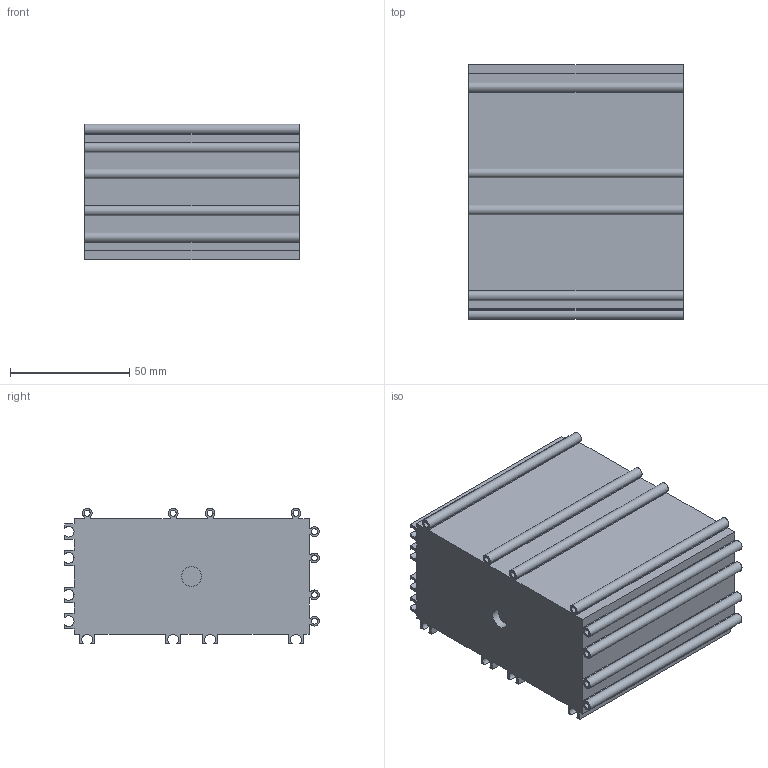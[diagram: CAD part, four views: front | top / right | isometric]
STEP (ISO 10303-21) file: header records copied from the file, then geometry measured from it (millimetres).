
FILE_DESCRIPTION(/* description */ (''),/* implementation_level */ '2;1');
FILE_NAME(/* name */ 'C:/Users/pet3r/Desktop/3D/MOJE/My Drawers/STEP/House 2x2.step',/* time_stamp */ '2018-03-31T21:33:16+02:00',/* author */ (''),/* organization */ (''),/* preprocessor_version */ 'ST-DEVELOPER v16.13',/* originating_system */ 'Autodesk Translation Framework v6.5.0.72',/* authorisation */ '');
FILE_SCHEMA (('AUTOMOTIVE_DESIGN { 1 0 10303 214 3 1 1 }'));
Length unit declared in the file: millimetre
Products named in the file (1): House 2x2
Bounding box: 90 x 106.77 x 56.77 mm (x, y, z)
Volume: 68277.3 mm3; surface area: 84351.1 mm2
Topology: 1 solids, 1 shells, 103 faces, 295 edges, 197 vertices
Faces by surface type: plane 77, cylinder 25, bspline 1
Full cylindrical faces by diameter (mm): 2.5 x8, 8.3 x1
Entity records: 3445 total; most frequent: CARTESIAN_POINT 622, ORIENTED_EDGE 590, DIRECTION 555, EDGE_CURVE 295, LINE 241, VECTOR 241, VERTEX_POINT 197, AXIS2_PLACEMENT_3D 157
